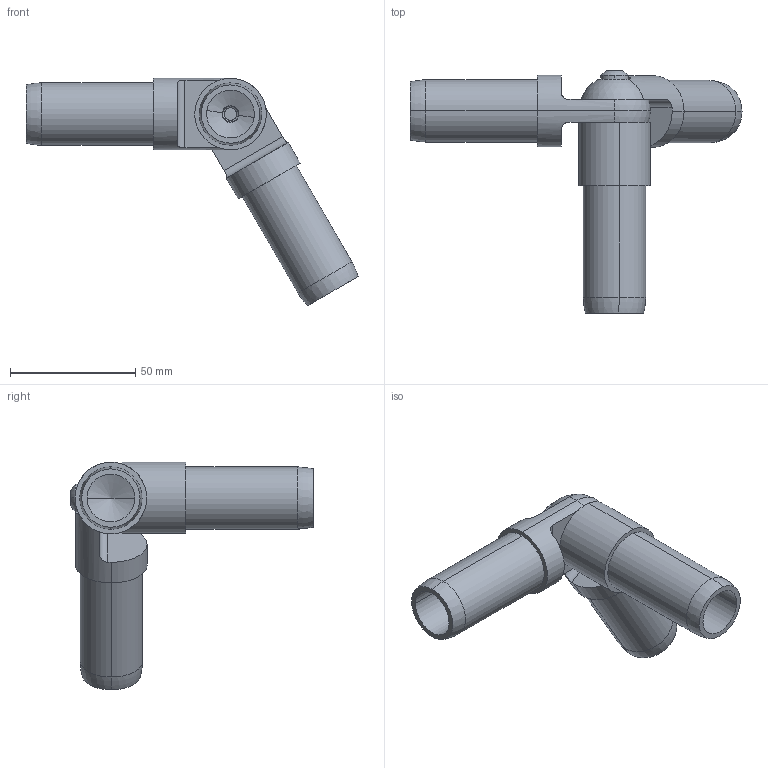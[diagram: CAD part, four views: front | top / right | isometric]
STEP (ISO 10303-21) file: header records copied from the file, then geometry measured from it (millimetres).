
FILE_DESCRIPTION (( 'STEP AP214' ), '1' );
FILE_NAME ('1 Inch Adjustable 90 Degree 3-Tube Joint Kit.STEP', '2014-01-10T16:37:16', ( 'ydmin' ), ( 'Microsoft' ), 'SwSTEP 2.0', 'SolidWorks 2013', '' );
FILE_SCHEMA (( 'AUTOMOTIVE_DESIGN' ));
Length unit declared in the file: inch
Products named in the file (1): 1 Inch Adjustable 90 Degree 3-Tube Joint Kit
Bounding box: 132.61 x 96.75 x 90.85 mm (x, y, z)
Volume: 69933.4 mm3; surface area: 35285.7 mm2
Topology: 5 solids, 5 shells, 222 faces, 474 edges, 265 vertices
Faces by surface type: cylinder 90, cone 81, plane 32, bspline 8, torus 6, sphere 5
Entity records: 14145 total; most frequent: CARTESIAN_POINT 6558, DIRECTION 973, ORIENTED_EDGE 940, EDGE_CURVE 470, AXIS2_PLACEMENT_3D 386, VERTEX_POINT 265, EDGE_LOOP 235, UNCERTAINTY_MEASURE_WITH_UNIT 229
